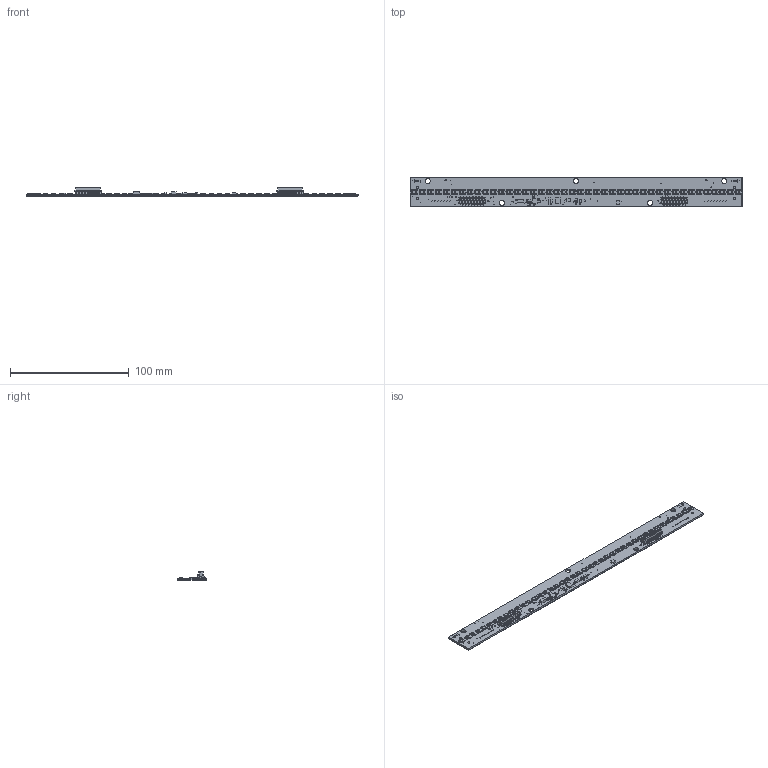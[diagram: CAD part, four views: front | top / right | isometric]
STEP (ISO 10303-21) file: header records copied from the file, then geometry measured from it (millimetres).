
FILE_DESCRIPTION (( 'STEP AP203' ), '1' );
FILE_NAME ('24.700.025.02 B MLTM PCBA 1 FT LUMENETIX 16 PIN TOP CONNECTORS.STEP', '2017-02-15T19:06:42', ( 'Rob' ), ( '' ), 'SwSTEP 2.0', 'SolidWorks 2016', '' );
FILE_SCHEMA (( 'CONFIG_CONTROL_DESIGN' ));
Length unit declared in the file: millimetre
Products named in the file (12): THERMAL SENSOR; ON-BOARD MEMORY; FIDUCIAL; 462.038 16 PIN CONNECTOR 8-188275-6; 22.700.025.01 1 MLTM PCB 1 FT LUMENETIX; 67.700.002.01 A LTM2 INSULATOR PAD 1FT LX; lumileds 3535L; 22_700_025_01_RevB_ASSY_021017A FROM EMN; TEST PADS; 24.700.025.02 B MLTM PCBA 1 FT LUMENETIX 16 PIN TOP CONNECTORS; LIGHT SENSOR VISHAY TEMD6200FX01; DIRECTION ARROW
Assembly tree (56 placements, depth 2):
  24.700.025.02 B MLTM PCBA 1 FT LUMENETIX 16 PIN TOP CONNECTORS
    22.700.025.01 1 MLTM PCB 1 FT LUMENETIX
    lumileds 3535L  x42
    TEST PADS
    LIGHT SENSOR VISHAY TEMD6200FX01
    DIRECTION ARROW  x2
    THERMAL SENSOR
    ON-BOARD MEMORY
    FIDUCIAL  x3
    462.038 16 PIN CONNECTOR 8-188275-6  x2
    67.700.002.01 A LTM2 INSULATOR PAD 1FT LX
    22_700_025_01_RevB_ASSY_021017A FROM EMN
Bounding box: 280 x 24 x 7.05 mm (x, y, z)
Volume: 23850.3 mm3; surface area: 46916.4 mm2
Topology: 253 solids, 253 shells, 4112 faces, 10814 edges, 7208 vertices
Faces by surface type: plane 2643, cylinder 1469
Entity records: 79919 total; most frequent: DIRECTION 13639, CARTESIAN_POINT 13167, ORIENTED_EDGE 12938, EDGE_CURVE 6469, AXIS2_PLACEMENT_3D 4784, VERTEX_POINT 4312, LINE 4071, VECTOR 4071
